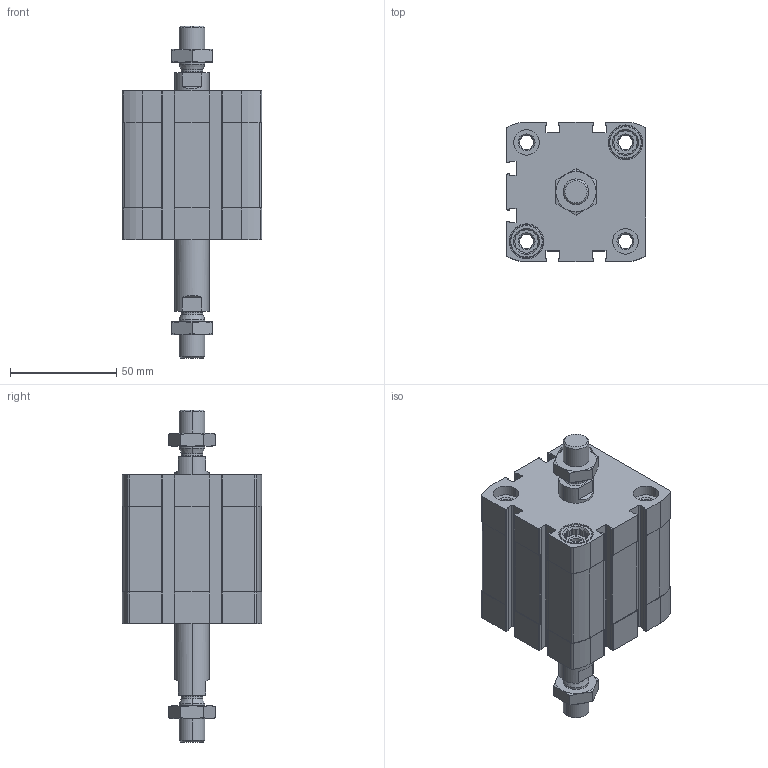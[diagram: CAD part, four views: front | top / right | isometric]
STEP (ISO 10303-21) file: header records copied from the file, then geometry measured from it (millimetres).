
FILE_DESCRIPTION (( 'STEP AP203' ), '1' );
FILE_NAME ('CCN50-25-P.STEP', '2020-06-22T18:57:02', ( '' ), ( '' ), 'SwSTEP 2.0', 'SolidWorks 2019', '' );
FILE_SCHEMA (( 'CONFIG_CONTROL_DESIGN' ));
Length unit declared in the file: millimetre
Products named in the file (1): CCN50-25-P
Bounding box: 65.5 x 65.5 x 156 mm (x, y, z)
Volume: 238834 mm3; surface area: 65925.9 mm2
Topology: 4 solids, 4 shells, 528 faces, 1392 edges, 904 vertices
Faces by surface type: plane 240, cylinder 220, cone 60, torus 8
Entity records: 17219 total; most frequent: CARTESIAN_POINT 3821, DIRECTION 2842, ORIENTED_EDGE 2784, EDGE_CURVE 1392, AXIS2_PLACEMENT_3D 1045, VERTEX_POINT 904, LINE 752, VECTOR 752
